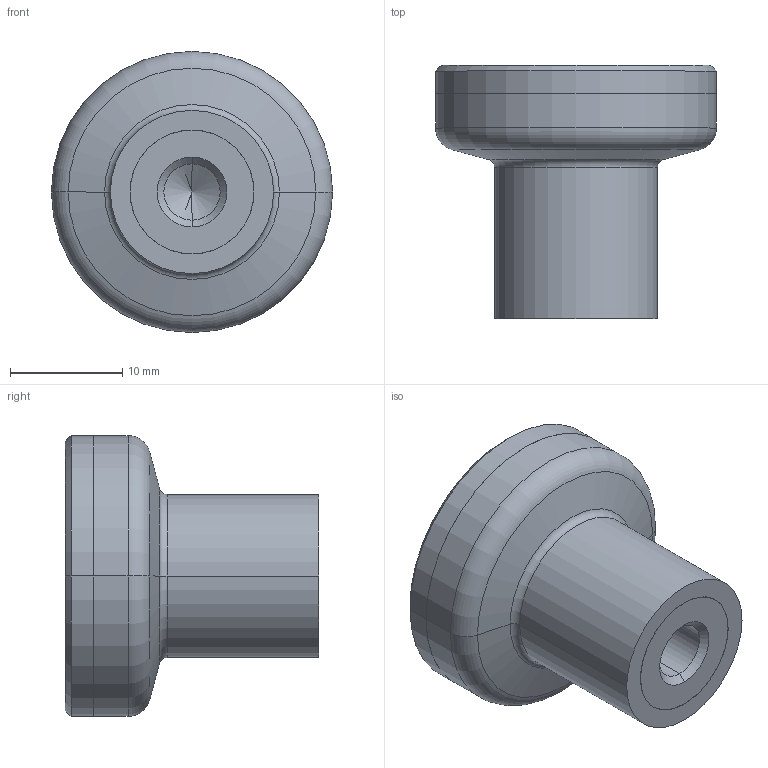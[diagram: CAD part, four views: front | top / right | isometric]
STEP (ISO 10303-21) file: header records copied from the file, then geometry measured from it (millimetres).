
FILE_DESCRIPTION (( 'STEP AP214' ), '1' );
FILE_NAME ('676-25-M6-SG.step', '2021-03-03T19:42:30', ( '' ), ( '' ), 'SwSTEP 2.0', 'SolidWorks 2019', '' );
FILE_SCHEMA (( 'AUTOMOTIVE_DESIGN' ));
Length unit declared in the file: millimetre
Products named in the file (1): 676-25-M6-SG
Bounding box: 25 x 22.5 x 25 mm (x, y, z)
Volume: 5728.6 mm3; surface area: 2359.8 mm2
Topology: 1 solids, 1 shells, 31 faces, 62 edges, 36 vertices
Faces by surface type: cylinder 12, cone 8, plane 5, torus 4, sphere 2
Entity records: 909 total; most frequent: DIRECTION 164, CARTESIAN_POINT 128, ORIENTED_EDGE 120, AXIS2_PLACEMENT_3D 72, EDGE_CURVE 60, CIRCLE 40, EDGE_LOOP 36, VERTEX_POINT 36
